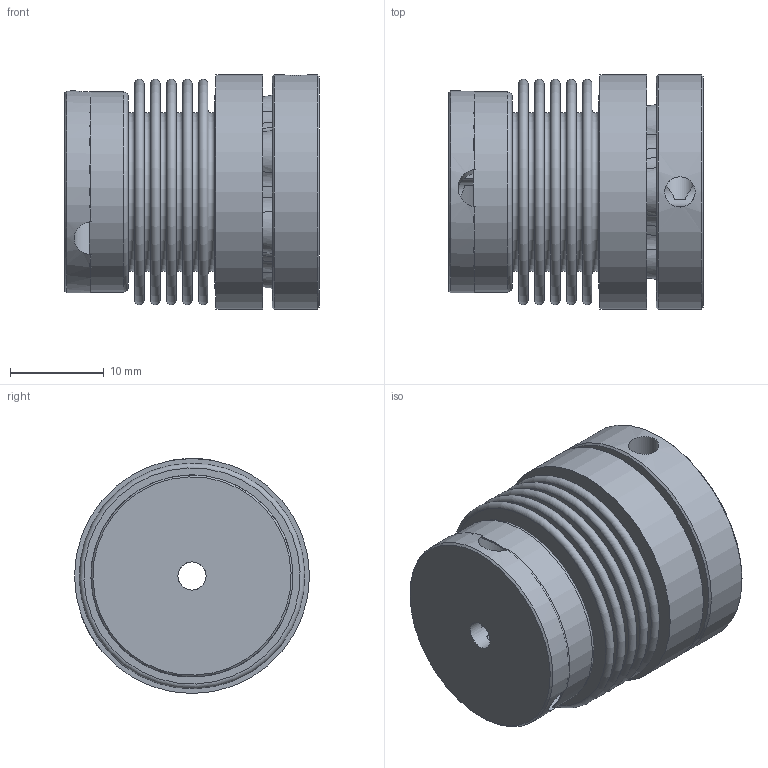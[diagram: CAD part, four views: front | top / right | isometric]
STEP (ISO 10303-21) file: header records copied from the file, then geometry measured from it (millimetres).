
FILE_DESCRIPTION( ( 'KBE1/14 - N7H8 - N14H7 - 98 Sh' ), '1' );
FILE_NAME( 'K:/Konstruktion/Fertigungszeichnungen/Metallbalgkupplung/KB1P/20/KB1P-20-27.stp', '14.12.2015', ( 'KBK-Antriebstechnik' ), ( 'KBK-Antriebstechnik' ), 'PSStep 16.0.42', 'Solid Edge St6', ' ' );
FILE_SCHEMA( ( 'AUTOMOTIVE_DESIGN { 1 0 10303 214 1 1 1 1 }' ) );
Length unit declared in the file: millimetre
Products named in the file (5): Assem1; Stecknabe KB1P-20; Balgaufnahme KB2P-20 für Step; MN20_Standard_2; BK20_Standard_1
Assembly tree (4 placements, depth 2):
  Assem1
    Stecknabe KB1P-20
    Balgaufnahme KB2P-20 für Step
    MN20_Standard_2
    BK20_Standard_1
Bounding box: 27.1 x 25 x 25 mm (x, y, z)
Volume: 7452.3 mm3; surface area: 11365.8 mm2
Topology: 4 solids, 4 shells, 133 faces, 309 edges, 203 vertices
Faces by surface type: cone 56, plane 37, torus 26, cylinder 14
Full cylindrical faces by diameter (mm): 3 x2, 3.242 x2, 4 x2, 21 x3, 21.3 x2, 21.5 x1, 25 x2
Entity records: 5092 total; most frequent: CARTESIAN_POINT 980, DIRECTION 684, ORIENTED_EDGE 496, AXIS2_PLACEMENT_3D 316, EDGE_CURVE 248, EDGE_LOOP 216, VERTEX_POINT 200, CIRCLE 176
